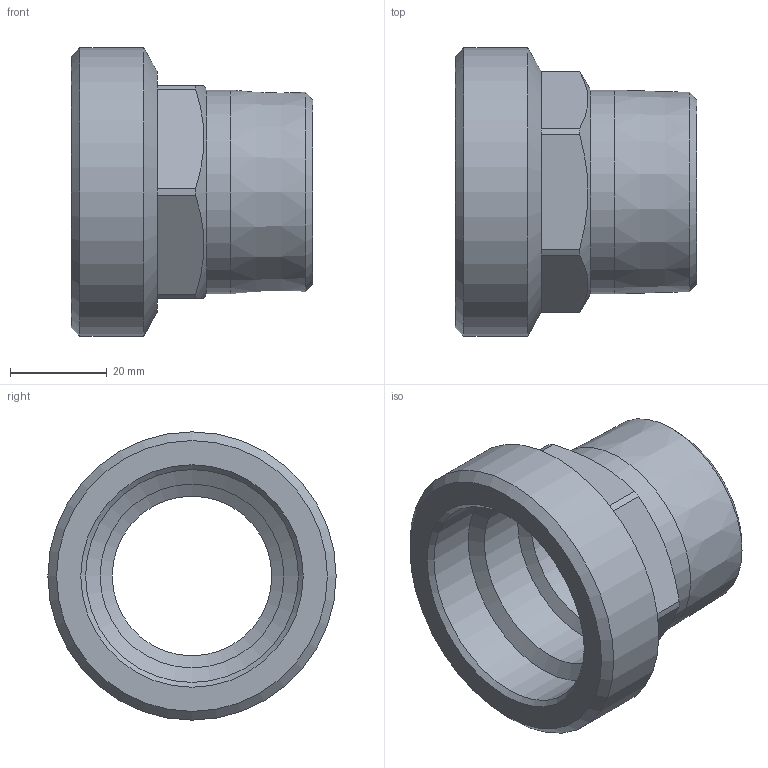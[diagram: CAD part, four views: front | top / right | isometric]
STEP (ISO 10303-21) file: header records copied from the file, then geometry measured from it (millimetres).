
FILE_DESCRIPTION((''),'2;1');
FILE_NAME('\\Lg50001\Groups\SANHA Legnica\Engineering\Public\Pajchrowski\projekty\8000 models\4376g\4376g STEP\14376_114-2(1).stp','2009-08-28T10:26:54',('pajchrowski'),(''),'Autodesk Inventor 2009','Autodesk Inventor 2009','');
FILE_SCHEMA(('AUTOMOTIVE_DESIGN { 1 0 10303 214 1 1 1 1 }'));
Length unit declared in the file: millimetre
Products named in the file (1): 14376_114-2(1)
Bounding box: 50 x 59.61 x 59.61 mm (x, y, z)
Volume: 41132.1 mm3; surface area: 16074.8 mm2
Topology: 1 solids, 1 shells, 34 faces, 73 edges, 41 vertices
Faces by surface type: plane 14, cylinder 11, cone 9
Full cylindrical faces by diameter (mm): 33 x1, 38 x1, 42.182 x1, 44 x1, 59.614 x1
Entity records: 842 total; most frequent: DIRECTION 154, CARTESIAN_POINT 143, ORIENTED_EDGE 114, AXIS2_PLACEMENT_3D 68, EDGE_CURVE 57, EDGE_LOOP 50, VERTEX_POINT 39, FACE_OUTER_BOUND 34
